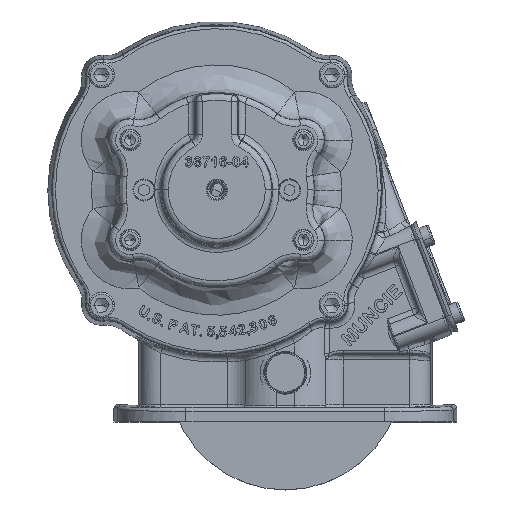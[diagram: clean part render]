
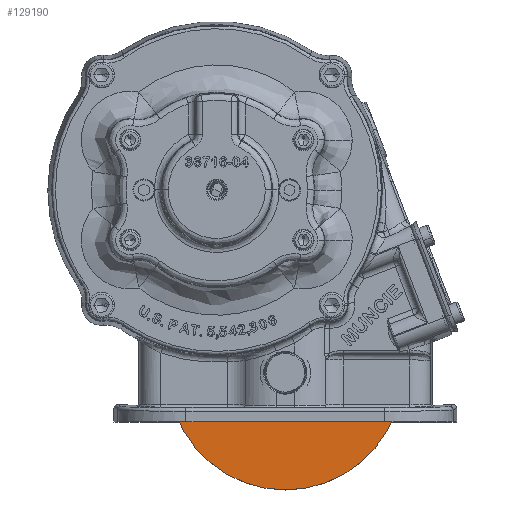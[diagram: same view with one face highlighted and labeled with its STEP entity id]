
A CAD part, top view. The second image highlights one B-rep face of the part: STEP entity #129190.
In plain terms, the highlighted planar face has unit normal (0, 0, 1) as drawn and (0, -1, 0) by its records, which use the part's own axes.
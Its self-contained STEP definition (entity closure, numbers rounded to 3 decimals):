
#7788 = CARTESIAN_POINT ( 'NONE',  ( 0., 0., -9.131 ) ) ;
#8293 = DIRECTION ( 'NONE',  ( 0., 0., 1. ) ) ;
#12598 = CARTESIAN_POINT ( 'NONE',  ( 0., 0., 0. ) ) ;
#13206 = AXIS2_PLACEMENT_3D ( 'NONE', #150145, #79307, #8293 ) ;
#21526 = CARTESIAN_POINT ( 'NONE',  ( 0., 0., 0. ) ) ;
#24497 = DIRECTION ( 'NONE',  ( 0., 0., 1. ) ) ;
#27212 = EDGE_LOOP ( 'NONE', ( #145890, #119230 ) ) ;
#33448 = PLANE ( 'NONE',  #152261 ) ;
#34116 = CARTESIAN_POINT ( 'NONE',  ( 0., 0., 9.131 ) ) ;
#40183 = EDGE_CURVE ( 'NONE', #96012, #119349, #81749, .T. ) ;
#40455 = ORIENTED_EDGE ( 'NONE', *, *, #82000, .F. ) ;
#43083 = CARTESIAN_POINT ( 'NONE',  ( 0., 0., 0. ) ) ;
#54240 = ORIENTED_EDGE ( 'NONE', *, *, #143444, .F. ) ;
#54998 = DIRECTION ( 'NONE',  ( 0., 0., 1. ) ) ;
#55150 = CIRCLE ( 'NONE', #125237, 54.229 ) ;
#56742 = DIRECTION ( 'NONE',  ( 0., 1., 0. ) ) ;
#61295 = EDGE_CURVE ( 'NONE', #119349, #96012, #109059, .T. ) ;
#64961 = CIRCLE ( 'NONE', #140620, 54.229 ) ;
#65478 = DIRECTION ( 'NONE',  ( 0., 1., 0. ) ) ;
#70002 = CARTESIAN_POINT ( 'NONE',  ( 0., 0., 54.229 ) ) ;
#79307 = DIRECTION ( 'NONE',  ( 0., 1., 0. ) ) ;
#81749 = CIRCLE ( 'NONE', #13206, 9.131 ) ;
#82000 = EDGE_CURVE ( 'NONE', #109875, #120372, #55150, .T. ) ;
#85035 = CARTESIAN_POINT ( 'NONE',  ( 0., 0., -54.229 ) ) ;
#88569 = FACE_BOUND ( 'NONE', #27212, .T. ) ;
#95476 = DIRECTION ( 'NONE',  ( 0., 1., 0. ) ) ;
#96012 = VERTEX_POINT ( 'NONE', #7788 ) ;
#100658 = AXIS2_PLACEMENT_3D ( 'NONE', #136445, #65478, #148257 ) ;
#109059 = CIRCLE ( 'NONE', #100658, 9.131 ) ;
#109875 = VERTEX_POINT ( 'NONE', #85035 ) ;
#116307 = DIRECTION ( 'NONE',  ( 0., 0., 1. ) ) ;
#119230 = ORIENTED_EDGE ( 'NONE', *, *, #40183, .T. ) ;
#119349 = VERTEX_POINT ( 'NONE', #34116 ) ;
#120372 = VERTEX_POINT ( 'NONE', #70002 ) ;
#125237 = AXIS2_PLACEMENT_3D ( 'NONE', #43083, #126011, #54998 ) ;
#126011 = DIRECTION ( 'NONE',  ( 0., 1., 0. ) ) ;
#129190 = ADVANCED_FACE ( 'NONE', ( #88569, #147810 ), #33448, .F. ) ;
#136445 = CARTESIAN_POINT ( 'NONE',  ( 0., 0., 0. ) ) ;
#140620 = AXIS2_PLACEMENT_3D ( 'NONE', #12598, #95476, #24497 ) ;
#143444 = EDGE_CURVE ( 'NONE', #120372, #109875, #64961, .T. ) ;
#144995 = EDGE_LOOP ( 'NONE', ( #40455, #54240 ) ) ;
#145890 = ORIENTED_EDGE ( 'NONE', *, *, #61295, .T. ) ;
#147810 = FACE_OUTER_BOUND ( 'NONE', #144995, .T. ) ;
#148257 = DIRECTION ( 'NONE',  ( 0., 0., 1. ) ) ;
#150145 = CARTESIAN_POINT ( 'NONE',  ( 0., 0., 0. ) ) ;
#152261 = AXIS2_PLACEMENT_3D ( 'NONE', #21526, #56742, #116307 ) ;
